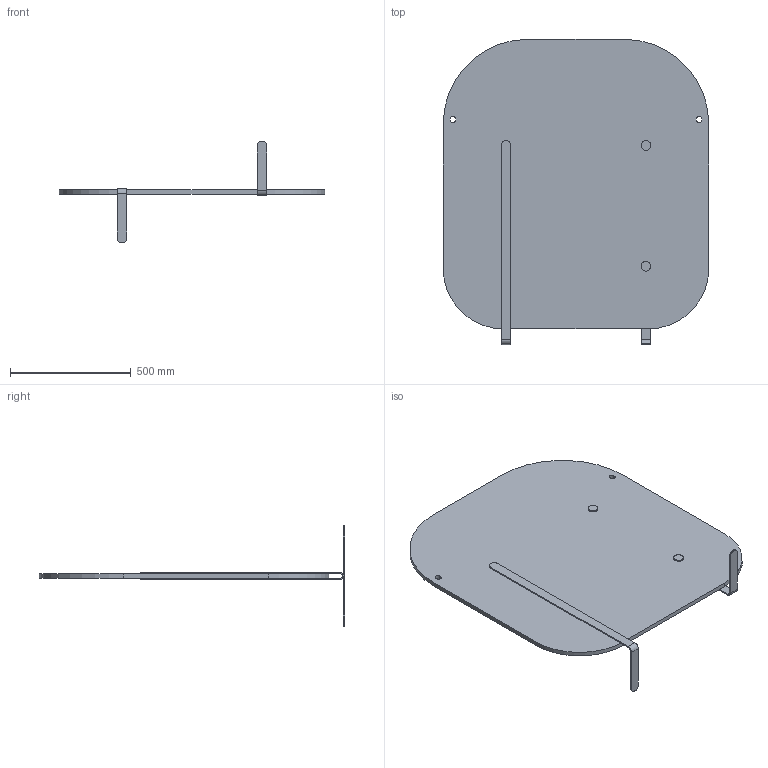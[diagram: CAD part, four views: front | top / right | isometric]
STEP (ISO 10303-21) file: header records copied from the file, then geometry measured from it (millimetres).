
FILE_DESCRIPTION (( 'STEP AP214' ), '1' );
FILE_NAME ('NIK_31.STEP', '2021-11-29T08:41:13', ( '' ), ( '' ), 'SwSTEP 2.0', 'SolidWorks 2019', '' );
FILE_SCHEMA (( 'AUTOMOTIVE_DESIGN' ));
Length unit declared in the file: millimetre
Products named in the file (7): TORNILLOS15; NIK_SOP_YW_01_01; NIK_SQUARE; NIK_SOP_YW_02; NIK_31; CASQUILLO_ROSCADO18
Assembly tree (13 placements, depth 3):
  NIK_31
    NIK_SQUARE
    NIK_SOP_YW_01_01
      NIK_SOP_YW_02
      CASQUILLO_ROSCADO18  x2
    NIK_SOP_YW_01_01
      NIK_SOP_YW_02
      CASQUILLO_ROSCADO18  x2
    TORNILLOS15  x4
Bounding box: 1100 x 1265 x 422 mm (x, y, z)
Volume: 22754985.1 mm3; surface area: 2769253 mm2
Topology: 11 solids, 11 shells, 240 faces, 610 edges, 396 vertices
Faces by surface type: cylinder 174, plane 54, bspline 12
Entity records: 5192 total; most frequent: CARTESIAN_POINT 2891, ORIENTED_EDGE 444, DIRECTION 419, EDGE_CURVE 222, AXIS2_PLACEMENT_3D 159, VERTEX_POINT 144, EDGE_LOOP 102, LINE 101
